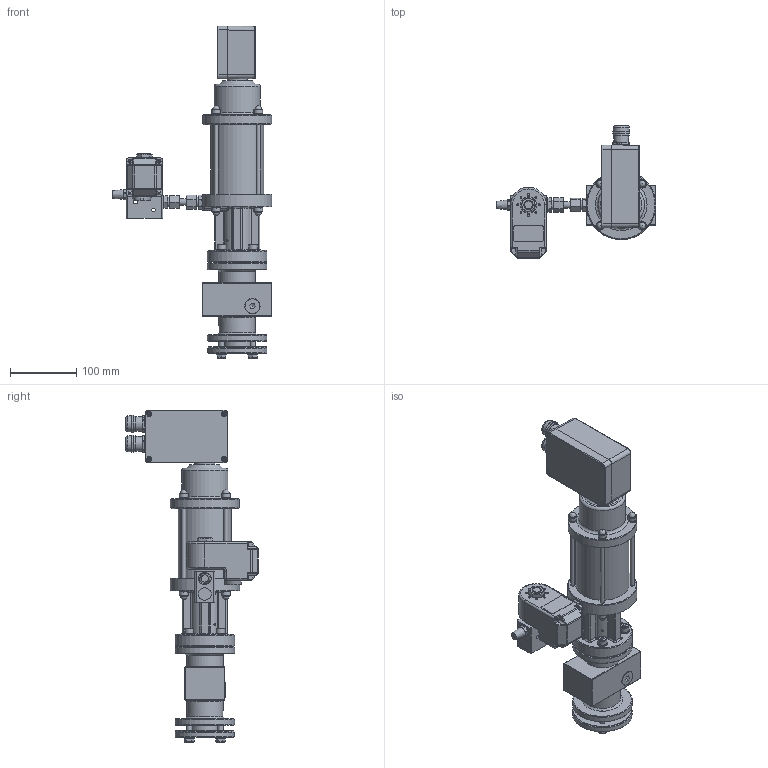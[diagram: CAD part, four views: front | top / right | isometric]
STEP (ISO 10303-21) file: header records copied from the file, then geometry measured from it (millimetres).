
FILE_DESCRIPTION((''),'2;1');
FILE_NAME('G:\CAD-Download\EPV\63-4 EPV 5R\63-4-EPV 5R.stp','2010-05-04T09:56:36',('hb'),(''),'Autodesk Inventor 2008','Autodesk Inventor 2008','');
FILE_SCHEMA(('AUTOMOTIVE_DESIGN { 1 0 10303 214 1 1 1 1 }'));
Length unit declared in the file: millimetre
Products named in the file (1): Bauteil8
Bounding box: 241.49 x 200.68 x 501.4 mm (x, y, z)
Volume: 2873184 mm3; surface area: 284809.9 mm2
Topology: 1 solids, 1 shells, 1473 faces, 3702 edges, 2289 vertices
Faces by surface type: plane 718, cylinder 327, cone 198, bspline 161, torus 51, sphere 18
Full cylindrical faces by diameter (mm): 3.621 x4, 4 x4, 5.7 x4, 6 x12, 8 x16, 10 x1, 11.5 x8, 11.63 x4, 13 x12, 14.376 x2, 16 x2, 19 x2, 22 x4, 23 x1, 23.52 x2, 23.98 x2, 30 x1, 42 x1, 47.7 x1, 55 x2, 70 x1, 80 x1, 88 x1, 90 x4, 104 x1, 105 x1
Entity records: 49236 total; most frequent: CARTESIAN_POINT 15928, DIRECTION 6785, ORIENTED_EDGE 6614, EDGE_CURVE 3307, AXIS2_PLACEMENT_3D 2737, VERTEX_POINT 2151, EDGE_LOOP 1880, FACE_OUTER_BOUND 1473
